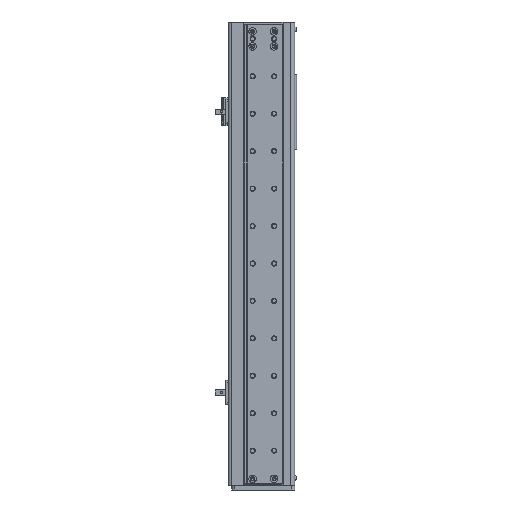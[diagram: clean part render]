
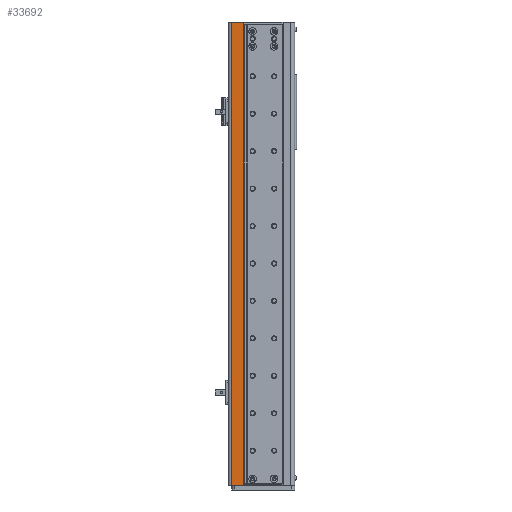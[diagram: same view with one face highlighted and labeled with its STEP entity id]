
A CAD part, front view. The second image highlights one B-rep face of the part: STEP entity #33692.
In plain terms, the highlighted planar face has unit normal (0, -1, 0).
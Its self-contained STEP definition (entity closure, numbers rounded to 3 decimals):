
#3876 = AXIS2_PLACEMENT_3D ( 'NONE', #17261, #17598, #17312 ) ;
#4676 = ORIENTED_EDGE ( 'NONE', *, *, #33568, .T. ) ;
#6960 = FACE_OUTER_BOUND ( 'NONE', #34539, .T. ) ;
#8768 = ORIENTED_EDGE ( 'NONE', *, *, #23705, .T. ) ;
#10972 = ORIENTED_EDGE ( 'NONE', *, *, #42427, .T. ) ;
#12210 = VECTOR ( 'NONE', #44243, 1000. ) ;
#13326 = LINE ( 'NONE', #28608, #41895 ) ;
#15156 = VECTOR ( 'NONE', #25943, 1000. ) ;
#16742 = LINE ( 'NONE', #34635, #32714 ) ;
#17261 = CARTESIAN_POINT ( 'NONE',  ( 12.5, 0., 495. ) ) ;
#17312 = DIRECTION ( 'NONE',  ( -1., 0., 0. ) ) ;
#17486 = VERTEX_POINT ( 'NONE', #27790 ) ;
#17598 = DIRECTION ( 'NONE',  ( 0., 1., 0. ) ) ;
#18162 = PLANE ( 'NONE',  #3876 ) ;
#20008 = EDGE_CURVE ( 'NONE', #20135, #17486, #44745, .T. ) ;
#20026 = CARTESIAN_POINT ( 'NONE',  ( -1., 0., 495. ) ) ;
#20135 = VERTEX_POINT ( 'NONE', #20026 ) ;
#20936 = VERTEX_POINT ( 'NONE', #36774 ) ;
#23705 = EDGE_CURVE ( 'NONE', #20936, #29346, #16742, .T. ) ;
#25943 = DIRECTION ( 'NONE',  ( 1., 0., 0. ) ) ;
#26068 = CARTESIAN_POINT ( 'NONE',  ( 12.5, 0., 495. ) ) ;
#27790 = CARTESIAN_POINT ( 'NONE',  ( 12.3, 0., 495. ) ) ;
#28372 = DIRECTION ( 'NONE',  ( 0., 0., -1. ) ) ;
#28608 = CARTESIAN_POINT ( 'NONE',  ( -1., 0., 0. ) ) ;
#29346 = VERTEX_POINT ( 'NONE', #39326 ) ;
#31958 = LINE ( 'NONE', #40560, #12210 ) ;
#32714 = VECTOR ( 'NONE', #34802, 1000. ) ;
#33568 = EDGE_CURVE ( 'NONE', #20135, #20936, #13326, .T. ) ;
#33692 = ADVANCED_FACE ( 'NONE', ( #6960 ), #18162, .F. ) ;
#34539 = EDGE_LOOP ( 'NONE', ( #43342, #4676, #8768, #10972 ) ) ;
#34635 = CARTESIAN_POINT ( 'NONE',  ( 12.5, 0., 0. ) ) ;
#34802 = DIRECTION ( 'NONE',  ( 1., 0., 0. ) ) ;
#36774 = CARTESIAN_POINT ( 'NONE',  ( -1., 0., 0. ) ) ;
#39326 = CARTESIAN_POINT ( 'NONE',  ( 12.3, 0., 0. ) ) ;
#40560 = CARTESIAN_POINT ( 'NONE',  ( 12.3, 0., 495. ) ) ;
#41895 = VECTOR ( 'NONE', #28372, 1000. ) ;
#42427 = EDGE_CURVE ( 'NONE', #29346, #17486, #31958, .T. ) ;
#43342 = ORIENTED_EDGE ( 'NONE', *, *, #20008, .F. ) ;
#44243 = DIRECTION ( 'NONE',  ( 0., 0., 1. ) ) ;
#44745 = LINE ( 'NONE', #26068, #15156 ) ;
